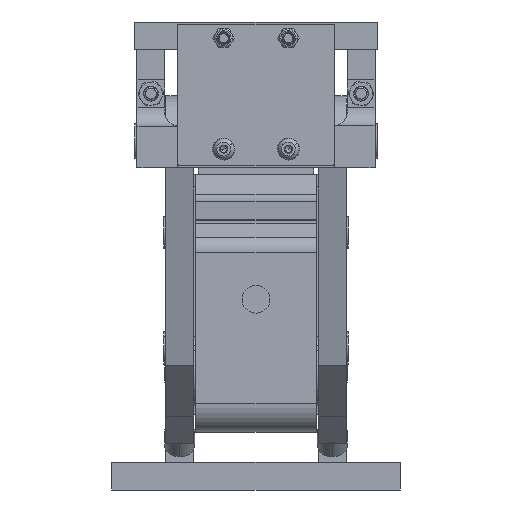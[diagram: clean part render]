
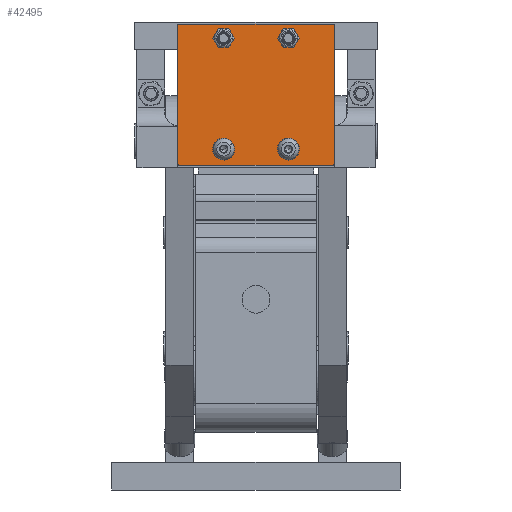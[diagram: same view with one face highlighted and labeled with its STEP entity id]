
A CAD part, left-side view. The second image highlights one B-rep face of the part: STEP entity #42495.
In plain terms, the highlighted planar face has unit normal (-1, 0, 0) as drawn and (0, 0, 1) by its records, which use the part's own axes.
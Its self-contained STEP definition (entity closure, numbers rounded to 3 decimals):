
#108 = FACE_BOUND ( 'NONE', #12199, .T. ) ;
#747 = DIRECTION ( 'NONE',  ( 0., -1., 0. ) ) ;
#788 = ORIENTED_EDGE ( 'NONE', *, *, #57575, .F. ) ;
#925 = CIRCLE ( 'NONE', #2091, 2.75 ) ;
#1287 = VERTEX_POINT ( 'NONE', #15598 ) ;
#2091 = AXIS2_PLACEMENT_3D ( 'NONE', #3781, #29585, #60736 ) ;
#2111 = DIRECTION ( 'NONE',  ( 1., 0., 0. ) ) ;
#3734 = LINE ( 'NONE', #30912, #66256 ) ;
#3781 = CARTESIAN_POINT ( 'NONE',  ( -14., 8., 32. ) ) ;
#4003 = CARTESIAN_POINT ( 'NONE',  ( -33., 1., 32. ) ) ;
#4262 = ORIENTED_EDGE ( 'NONE', *, *, #7861, .T. ) ;
#4299 = CIRCLE ( 'NONE', #29115, 1. ) ;
#5129 = CARTESIAN_POINT ( 'NONE',  ( 16.75, 8., 32. ) ) ;
#5194 = DIRECTION ( 'NONE',  ( 1., 0., 0. ) ) ;
#5586 = ORIENTED_EDGE ( 'NONE', *, *, #30267, .F. ) ;
#5611 = DIRECTION ( 'NONE',  ( 1., 0., 0. ) ) ;
#5953 = CIRCLE ( 'NONE', #24020, 1. ) ;
#6050 = CARTESIAN_POINT ( 'NONE',  ( -34., 2., 32. ) ) ;
#6485 = AXIS2_PLACEMENT_3D ( 'NONE', #55446, #7122, #55796 ) ;
#6498 = VERTEX_POINT ( 'NONE', #12938 ) ;
#6561 = ORIENTED_EDGE ( 'NONE', *, *, #24856, .F. ) ;
#7044 = DIRECTION ( 'NONE',  ( 0., 0., 1. ) ) ;
#7122 = DIRECTION ( 'NONE',  ( 0., 0., 1. ) ) ;
#7574 = VERTEX_POINT ( 'NONE', #19279 ) ;
#7861 = EDGE_CURVE ( 'NONE', #17157, #50444, #43598, .T. ) ;
#8396 = CIRCLE ( 'NONE', #47821, 2.75 ) ;
#8672 = DIRECTION ( 'NONE',  ( 0., 0., 1. ) ) ;
#9151 = CARTESIAN_POINT ( 'NONE',  ( 11.25, 8., 32. ) ) ;
#9295 = CARTESIAN_POINT ( 'NONE',  ( -33., 62., 32. ) ) ;
#9407 = DIRECTION ( 'NONE',  ( -1., 0., 0. ) ) ;
#9698 = CARTESIAN_POINT ( 'NONE',  ( 34., 61., 32. ) ) ;
#10387 = CARTESIAN_POINT ( 'NONE',  ( 33., 2., 32. ) ) ;
#11079 = DIRECTION ( 'NONE',  ( 0., 0., -1. ) ) ;
#11087 = ORIENTED_EDGE ( 'NONE', *, *, #21780, .T. ) ;
#11706 = CIRCLE ( 'NONE', #17358, 2.75 ) ;
#11816 = DIRECTION ( 'NONE',  ( 0., 0., 1. ) ) ;
#12199 = EDGE_LOOP ( 'NONE', ( #5586, #29633 ) ) ;
#12340 = DIRECTION ( 'NONE',  ( 1., 0., 0. ) ) ;
#12594 = VERTEX_POINT ( 'NONE', #24484 ) ;
#12938 = CARTESIAN_POINT ( 'NONE',  ( -16.75, 8., 32. ) ) ;
#13654 = DIRECTION ( 'NONE',  ( 1., 0., 0. ) ) ;
#14346 = DIRECTION ( 'NONE',  ( 1., 0., 0. ) ) ;
#15079 = ORIENTED_EDGE ( 'NONE', *, *, #18809, .T. ) ;
#15598 = CARTESIAN_POINT ( 'NONE',  ( 33., 62., 32. ) ) ;
#16479 = EDGE_CURVE ( 'NONE', #6498, #64451, #925, .T. ) ;
#16623 = CARTESIAN_POINT ( 'NONE',  ( 14., 56., 32. ) ) ;
#16808 = EDGE_LOOP ( 'NONE', ( #788, #35626 ) ) ;
#16923 = CARTESIAN_POINT ( 'NONE',  ( -34., 61., 32. ) ) ;
#16951 = LINE ( 'NONE', #33164, #66382 ) ;
#17120 = DIRECTION ( 'NONE',  ( -1., 0., 0. ) ) ;
#17157 = VERTEX_POINT ( 'NONE', #9295 ) ;
#17358 = AXIS2_PLACEMENT_3D ( 'NONE', #27918, #40200, #2111 ) ;
#17591 = EDGE_CURVE ( 'NONE', #52612, #47644, #16951, .T. ) ;
#18354 = DIRECTION ( 'NONE',  ( 1., 0., 0. ) ) ;
#18618 = AXIS2_PLACEMENT_3D ( 'NONE', #16623, #7044, #39154 ) ;
#18809 = EDGE_CURVE ( 'NONE', #12594, #52612, #20055, .T. ) ;
#19279 = CARTESIAN_POINT ( 'NONE',  ( -16.75, 56., 32. ) ) ;
#20055 = CIRCLE ( 'NONE', #6485, 1. ) ;
#20238 = CARTESIAN_POINT ( 'NONE',  ( 16.75, 56., 32. ) ) ;
#20293 = DIRECTION ( 'NONE',  ( 0., 0., 1. ) ) ;
#20554 = VERTEX_POINT ( 'NONE', #52966 ) ;
#20613 = FACE_BOUND ( 'NONE', #57530, .T. ) ;
#21780 = EDGE_CURVE ( 'NONE', #50444, #12594, #54732, .T. ) ;
#22703 = AXIS2_PLACEMENT_3D ( 'NONE', #52716, #20293, #13654 ) ;
#23127 = VECTOR ( 'NONE', #747, 1000. ) ;
#24020 = AXIS2_PLACEMENT_3D ( 'NONE', #45281, #11816, #17120 ) ;
#24484 = CARTESIAN_POINT ( 'NONE',  ( -34., 2., 32. ) ) ;
#24856 = EDGE_CURVE ( 'NONE', #39250, #7574, #53682, .T. ) ;
#25528 = FACE_BOUND ( 'NONE', #35679, .T. ) ;
#25714 = DIRECTION ( 'NONE',  ( 0., 0., 1. ) ) ;
#26011 = DIRECTION ( 'NONE',  ( 0., 0., 1. ) ) ;
#26234 = FACE_OUTER_BOUND ( 'NONE', #27876, .T. ) ;
#27114 = ORIENTED_EDGE ( 'NONE', *, *, #42118, .T. ) ;
#27216 = AXIS2_PLACEMENT_3D ( 'NONE', #62608, #8672, #14346 ) ;
#27832 = AXIS2_PLACEMENT_3D ( 'NONE', #62729, #25714, #5194 ) ;
#27876 = EDGE_LOOP ( 'NONE', ( #40720, #38929, #55127, #27114, #4262, #11087, #15079, #55443 ) ) ;
#27918 = CARTESIAN_POINT ( 'NONE',  ( 14., 8., 32. ) ) ;
#28234 = DIRECTION ( 'NONE',  ( 0., 0., 1. ) ) ;
#29001 = CIRCLE ( 'NONE', #62803, 2.75 ) ;
#29115 = AXIS2_PLACEMENT_3D ( 'NONE', #54990, #28234, #12340 ) ;
#29585 = DIRECTION ( 'NONE',  ( 0., 0., 1. ) ) ;
#29633 = ORIENTED_EDGE ( 'NONE', *, *, #43832, .F. ) ;
#30267 = EDGE_CURVE ( 'NONE', #33162, #57641, #11706, .T. ) ;
#30887 = EDGE_CURVE ( 'NONE', #7574, #39250, #8396, .T. ) ;
#30912 = CARTESIAN_POINT ( 'NONE',  ( -33., 62., 32. ) ) ;
#31869 = DIRECTION ( 'NONE',  ( -1., 0., 0. ) ) ;
#33162 = VERTEX_POINT ( 'NONE', #5129 ) ;
#33164 = CARTESIAN_POINT ( 'NONE',  ( -33., 1., 32. ) ) ;
#33999 = ORIENTED_EDGE ( 'NONE', *, *, #30887, .F. ) ;
#34333 = CARTESIAN_POINT ( 'NONE',  ( 33., 1., 32. ) ) ;
#34911 = CARTESIAN_POINT ( 'NONE',  ( -14., 8., 32. ) ) ;
#35465 = CIRCLE ( 'NONE', #18618, 2.75 ) ;
#35626 = ORIENTED_EDGE ( 'NONE', *, *, #16479, .F. ) ;
#35665 = DIRECTION ( 'NONE',  ( -1., 0., 0. ) ) ;
#35679 = EDGE_LOOP ( 'NONE', ( #36131, #55298 ) ) ;
#36131 = ORIENTED_EDGE ( 'NONE', *, *, #44707, .F. ) ;
#36166 = DIRECTION ( 'NONE',  ( 0., 1., 0. ) ) ;
#36194 = CARTESIAN_POINT ( 'NONE',  ( -11.25, 8., 32. ) ) ;
#38929 = ORIENTED_EDGE ( 'NONE', *, *, #63192, .T. ) ;
#39137 = DIRECTION ( 'NONE',  ( 0., 0., 1. ) ) ;
#39154 = DIRECTION ( 'NONE',  ( 1., 0., 0. ) ) ;
#39250 = VERTEX_POINT ( 'NONE', #63641 ) ;
#39582 = CIRCLE ( 'NONE', #22703, 2.75 ) ;
#40200 = DIRECTION ( 'NONE',  ( 0., 0., 1. ) ) ;
#40588 = DIRECTION ( 'NONE',  ( 0., 0., 1. ) ) ;
#40720 = ORIENTED_EDGE ( 'NONE', *, *, #43957, .T. ) ;
#40824 = CIRCLE ( 'NONE', #27216, 2.75 ) ;
#41408 = CARTESIAN_POINT ( 'NONE',  ( 34., 2., 32. ) ) ;
#41606 = VERTEX_POINT ( 'NONE', #20238 ) ;
#42117 = PLANE ( 'NONE',  #68540 ) ;
#42118 = EDGE_CURVE ( 'NONE', #1287, #17157, #3734, .T. ) ;
#42495 = ADVANCED_FACE ( 'NONE', ( #68852, #108, #20613, #25528, #26234 ), #42117, .F. ) ;
#43355 = VERTEX_POINT ( 'NONE', #41408 ) ;
#43598 = CIRCLE ( 'NONE', #53747, 1. ) ;
#43832 = EDGE_CURVE ( 'NONE', #57641, #33162, #39582, .T. ) ;
#43957 = EDGE_CURVE ( 'NONE', #47644, #43355, #5953, .T. ) ;
#44707 = EDGE_CURVE ( 'NONE', #41606, #20554, #40824, .T. ) ;
#45281 = CARTESIAN_POINT ( 'NONE',  ( 33., 2., 32. ) ) ;
#46743 = EDGE_CURVE ( 'NONE', #20554, #41606, #35465, .T. ) ;
#47644 = VERTEX_POINT ( 'NONE', #34333 ) ;
#47821 = AXIS2_PLACEMENT_3D ( 'NONE', #64405, #26011, #48195 ) ;
#48102 = LINE ( 'NONE', #9698, #50198 ) ;
#48195 = DIRECTION ( 'NONE',  ( 1., 0., 0. ) ) ;
#50198 = VECTOR ( 'NONE', #36166, 1000. ) ;
#50433 = VERTEX_POINT ( 'NONE', #53925 ) ;
#50444 = VERTEX_POINT ( 'NONE', #16923 ) ;
#52612 = VERTEX_POINT ( 'NONE', #4003 ) ;
#52716 = CARTESIAN_POINT ( 'NONE',  ( 14., 8., 32. ) ) ;
#52966 = CARTESIAN_POINT ( 'NONE',  ( 11.25, 56., 32. ) ) ;
#53682 = CIRCLE ( 'NONE', #27832, 2.75 ) ;
#53747 = AXIS2_PLACEMENT_3D ( 'NONE', #63492, #40588, #35665 ) ;
#53925 = CARTESIAN_POINT ( 'NONE',  ( 34., 61., 32. ) ) ;
#54732 = LINE ( 'NONE', #6050, #23127 ) ;
#54990 = CARTESIAN_POINT ( 'NONE',  ( 33., 61., 32. ) ) ;
#55127 = ORIENTED_EDGE ( 'NONE', *, *, #56706, .T. ) ;
#55298 = ORIENTED_EDGE ( 'NONE', *, *, #46743, .F. ) ;
#55443 = ORIENTED_EDGE ( 'NONE', *, *, #17591, .T. ) ;
#55446 = CARTESIAN_POINT ( 'NONE',  ( -33., 2., 32. ) ) ;
#55796 = DIRECTION ( 'NONE',  ( 1., 0., 0. ) ) ;
#56706 = EDGE_CURVE ( 'NONE', #50433, #1287, #4299, .T. ) ;
#57530 = EDGE_LOOP ( 'NONE', ( #6561, #33999 ) ) ;
#57575 = EDGE_CURVE ( 'NONE', #64451, #6498, #29001, .T. ) ;
#57641 = VERTEX_POINT ( 'NONE', #9151 ) ;
#60736 = DIRECTION ( 'NONE',  ( 1., 0., 0. ) ) ;
#62608 = CARTESIAN_POINT ( 'NONE',  ( 14., 56., 32. ) ) ;
#62729 = CARTESIAN_POINT ( 'NONE',  ( -14., 56., 32. ) ) ;
#62803 = AXIS2_PLACEMENT_3D ( 'NONE', #34911, #39137, #18354 ) ;
#63192 = EDGE_CURVE ( 'NONE', #43355, #50433, #48102, .T. ) ;
#63492 = CARTESIAN_POINT ( 'NONE',  ( -33., 61., 32. ) ) ;
#63641 = CARTESIAN_POINT ( 'NONE',  ( -11.25, 56., 32. ) ) ;
#64405 = CARTESIAN_POINT ( 'NONE',  ( -14., 56., 32. ) ) ;
#64451 = VERTEX_POINT ( 'NONE', #36194 ) ;
#66256 = VECTOR ( 'NONE', #9407, 1000. ) ;
#66382 = VECTOR ( 'NONE', #5611, 1000. ) ;
#68540 = AXIS2_PLACEMENT_3D ( 'NONE', #10387, #11079, #31869 ) ;
#68852 = FACE_BOUND ( 'NONE', #16808, .T. ) ;
